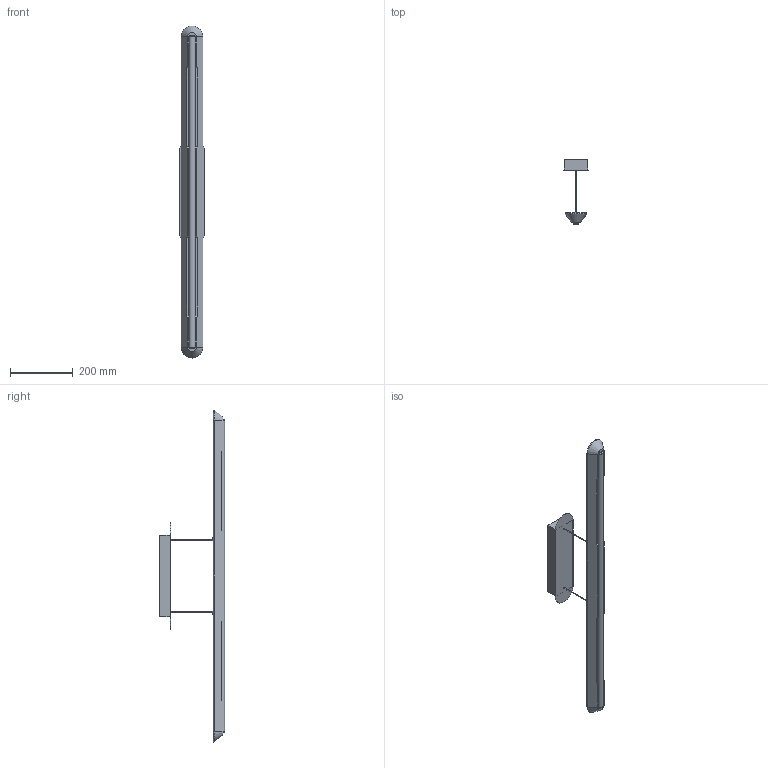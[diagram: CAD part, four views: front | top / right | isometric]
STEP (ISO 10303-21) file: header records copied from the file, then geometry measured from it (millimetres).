
FILE_DESCRIPTION(/* description */ (''),/* implementation_level */ '2;1');
FILE_NAME(/* name */ 'C:\Users\STEFANO\Desktop\3D SEM\1406-23 - WOODY SOSPENSIONE LARGE F.E\SEM.000024.stp',/* time_stamp */ '2019-09-12T17:33:57+02:00',/* author */ ('STEFANO'),/* organization */ (''),/* preprocessor_version */ 'ST-DEVELOPER v17',/* originating_system */ 'Autodesk Inventor 2019',/* authorisation */ '');
FILE_SCHEMA (('AUTOMOTIVE_DESIGN { 1 0 10303 214 3 1 1 }'));
Length unit declared in the file: millimetre
Products named in the file (7): ass_sospensione_woody_106; CORPO_SOSPENSIONE_WOODY_106; PREASS_ROSONE_WOODY_106; PIASTRA_ROSONE_WOODY; Parte194; cavo; Parte193
Assembly tree (8 placements, depth 3):
  ass_sospensione_woody_106
    CORPO_SOSPENSIONE_WOODY_106
    PREASS_ROSONE_WOODY_106
      PIASTRA_ROSONE_WOODY
    Parte194  x2
    cavo  x2
    Parte193
Bounding box: 80 x 208.26 x 1059.19 mm (x, y, z)
Volume: 2105980.8 mm3; surface area: 377156.9 mm2
Topology: 7 solids, 7 shells, 77 faces, 180 edges, 120 vertices
Faces by surface type: plane 46, cylinder 19, torus 8, cone 2, sphere 2
Full cylindrical faces by diameter (mm): 2.7 x2, 4 x4
Entity records: 2271 total; most frequent: DIRECTION 386, CARTESIAN_POINT 358, ORIENTED_EDGE 330, EDGE_CURVE 165, AXIS2_PLACEMENT_3D 137, LINE 112, VECTOR 112, VERTEX_POINT 109
